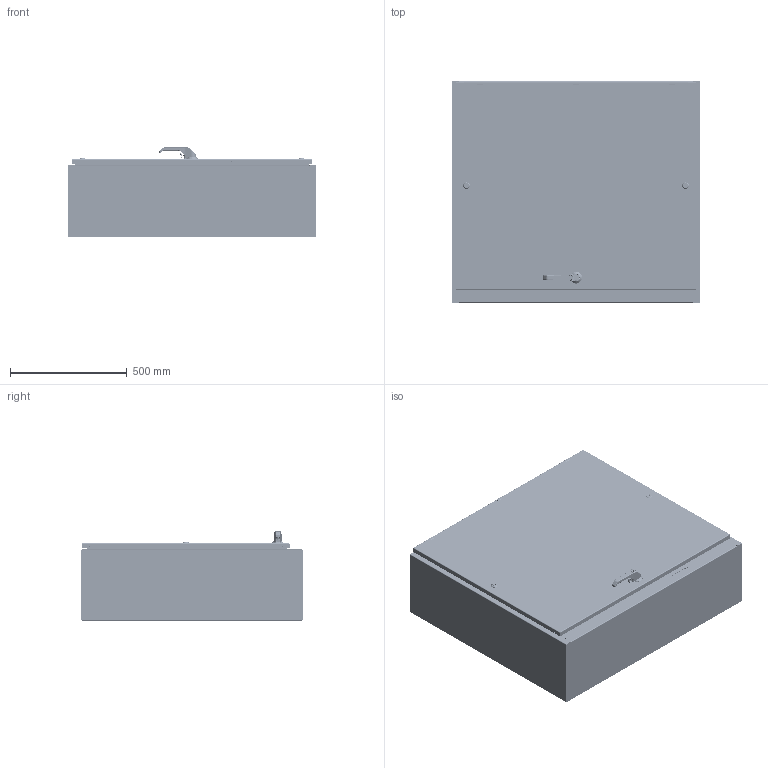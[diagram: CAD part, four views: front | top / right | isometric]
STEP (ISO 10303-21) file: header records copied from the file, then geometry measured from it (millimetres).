
FILE_DESCRIPTION((''),'2;1');
FILE_NAME('MODEL-314_ASM','2024-02-13T13:53:56',('JoelB'),('SAGINAW CONTROL & ENGINEERING'),'CREO PARAMETRIC BY PTC INC, 2021284','CREO PARAMETRIC BY PTC INC, 2021284','');
FILE_SCHEMA(('AUTOMOTIVE_DESIGN { 1 0 10303 214 1 1 1 1 }'));
Length unit declared in the file: inch
Products named in the file (56): MODEL-314-BDY; MODEL-314-LS; MODEL-314-RS; MODEL-314-DR; 100837; 100882; 111267; 100794_SHAFT; 100794_INSERT; 100794_CAM; 100794_NUT; 100794_SCREW; 100794_ASM; 100953_HANDLE; 100953_HANDLE_INSERT; 100953_SHAFT_CAM; 100953_ADAPTER_CAM; 100953_NUT_CAM; 100953_BASE; 100953_O-RING; 100953_WASHER_SEALING; 100953_NUT_MOUNTING_LARGE; 100953_NUT_MOUNTING_SMALL; 100953_SCREW_SMALL; 100953_INSERT; 100953_PADLOCK_CATCH; 100953_ASM; 128142; 100030; 128142_ASM; MODEL-314-ROD-UPR; 128146; 128145; 128144; 102482; MODEL-314-ROD-UPR_ASM; 128143; 112504; MODEL-314-ROD-LWR; MODEL-314-ROD-LWR_ASM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
Assembly tree (107 placements, depth 4):
  MODEL-314_ASM
    MODEL-314-BDY
    MODEL-314-LS
    MODEL-314-RS
    MODEL-314-DOOR-ASSY_ASM
      MODEL-314-DR
      100837  x7
      100882  x4
      111267
      100794_ASM  x2
        100794_SHAFT
        100794_INSERT
        100794_CAM
        100794_NUT
        100794_SCREW
      100953_ASM
        100953_HANDLE
        100953_HANDLE_INSERT
        100953_SHAFT_CAM
        100953_ADAPTER_CAM
        100953_NUT_CAM
        100953_BASE
        100953_O-RING
        100953_WASHER_SEALING
        100953_NUT_MOUNTING_LARGE
        100953_NUT_MOUNTING_SMALL
        100953_SCREW_SMALL
        100953_INSERT
        100953_PADLOCK_CATCH
      128142_ASM
        128142
        100030  x2
      MODEL-314-ROD-UPR_ASM
        MODEL-314-ROD-UPR
        128146
        128145
        128144
        102482  x2
      128143  x2
      112504  x2
      MODEL-314-ROD-LWR_ASM
        MODEL-314-ROD-LWR
        128146
        128145
        128144
        102482  x2
      MODEL-314-GSKT
      126391_ASM  x3
        126391
      126393  x3
      102483  x9
      101226  x3
      101376  x3
      102140  x3
    100837
    102022
    101653  x8
    122193
    SUBPANEL-SUBASSEMBLY_ASM
      SUBPANEL
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Bounding box: 1066.8 x 949.33 x 381.93 mm (x, y, z)
Volume: 10258414.9 mm3; surface area: 9244745.4 mm2
Topology: 108 solids, 108 shells, 7756 faces, 19528 edges, 12059 vertices
Faces by surface type: plane 2995, cylinder 2139, bspline 1169, cone 609, torus 584, sphere 260
Entity records: 222327 total; most frequent: CARTESIAN_POINT 73536, ORIENTED_EDGE 22330, DIRECTION 20932, PRESENTATION_STYLE_ASSIGNMENT 11536, EDGE_CURVE 11165, STYLED_ITEM 11115, CURVE_STYLE 11003, AXIS2_PLACEMENT_3D 7802
